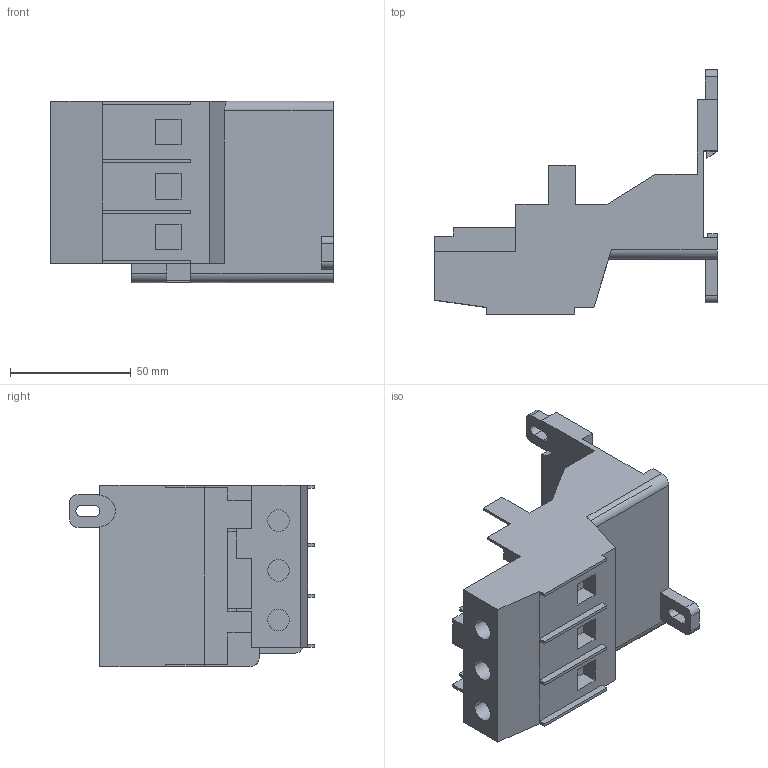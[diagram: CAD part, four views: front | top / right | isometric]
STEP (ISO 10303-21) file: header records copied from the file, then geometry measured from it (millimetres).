
FILE_DESCRIPTION (( 'STEP AP203' ), '1' );
FILE_NAME ('ﾊﾐﾋ-2-ﾓﾕﾋ4-ﾊﾝﾀﾇ (110535).STEP', '2015-11-24T12:38:53', ( '' ), ( '' ), 'SwSTEP 2.0', 'SolidWorks 2012', '' );
FILE_SCHEMA (( 'CONFIG_CONTROL_DESIGN' ));
Length unit declared in the file: millimetre
Products named in the file (1): ﾊﾐﾋ-2-ﾓﾕﾋ4-ﾊﾝﾀﾇ (110535)
Bounding box: 117.1 x 101.3 x 75.2 mm (x, y, z)
Volume: 133751.5 mm3; surface area: 57638.7 mm2
Topology: 1 solids, 1 shells, 185 faces, 530 edges, 348 vertices
Faces by surface type: plane 166, cylinder 19
Entity records: 6056 total; most frequent: CARTESIAN_POINT 1067, ORIENTED_EDGE 1060, DIRECTION 964, EDGE_CURVE 530, LINE 466, VECTOR 466, VERTEX_POINT 348, AXIS2_PLACEMENT_3D 249
